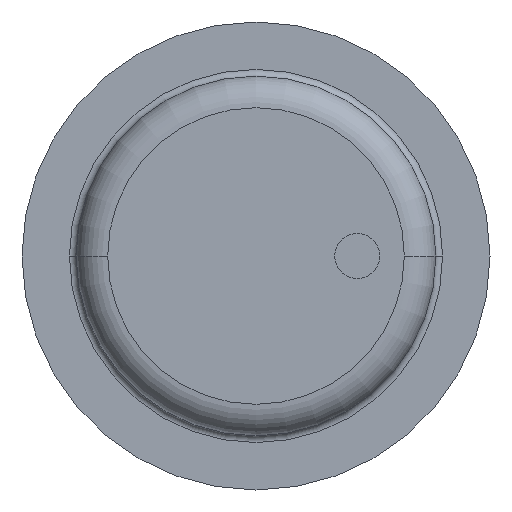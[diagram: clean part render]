
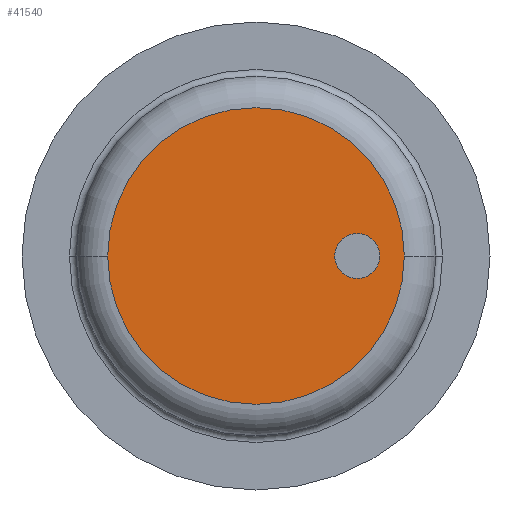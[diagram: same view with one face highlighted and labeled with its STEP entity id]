
A CAD part, front view. The second image highlights one B-rep face of the part: STEP entity #41540.
In plain terms, the highlighted planar face has unit normal (0, -1, 0).
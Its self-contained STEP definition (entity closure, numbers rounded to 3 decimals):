
#41040=CARTESIAN_POINT('',(9.07,-434.,0.));
#41050=VERTEX_POINT('',#41040);
#41080=CARTESIAN_POINT('',(75.,-434.,0.));
#41090=DIRECTION('',(0.,1.,0.));
#41100=DIRECTION('',(1.,0.,0.));
#41110=AXIS2_PLACEMENT_3D('',#41080,#41090,#41100);
#41120=CIRCLE('',#41110,65.93);
#41130=CARTESIAN_POINT('',(140.93,-434.,0.));
#41140=VERTEX_POINT('',#41130);
#41150=EDGE_CURVE('',#41140,#41050,#41120,.T.);
#41290=CARTESIAN_POINT('',(107.965,-434.,0.));
#41300=DIRECTION('',(0.,-1.,0.));
#41310=DIRECTION('',(-1.,0.,0.));
#41320=AXIS2_PLACEMENT_3D('',#41290,#41300,#41310);
#41330=PLANE('',#41320);
#41340=CARTESIAN_POINT('',(120.,-434.,0.));
#41350=DIRECTION('',(0.,1.,0.));
#41360=DIRECTION('',(1.,0.,0.));
#41370=AXIS2_PLACEMENT_3D('',#41340,#41350,#41360);
#41380=CIRCLE('',#41370,10.);
#41390=CARTESIAN_POINT('',(110.,-434.,0.));
#41400=VERTEX_POINT('',#41390);
#41410=CARTESIAN_POINT('',(130.,-434.,0.));
#41420=VERTEX_POINT('',#41410);
#41430=EDGE_CURVE('',#41400,#41420,#41380,.T.);
#41440=ORIENTED_EDGE('',*,*,#41430,.T.);
#41450=EDGE_CURVE('',#41420,#41400,#41380,.T.);
#41460=ORIENTED_EDGE('',*,*,#41450,.T.);
#41470=EDGE_LOOP('',(#41460,#41440));
#41480=FACE_BOUND('',#41470,.T.);
#41490=ORIENTED_EDGE('',*,*,#41150,.F.);
#41500=EDGE_CURVE('',#41050,#41140,#41120,.T.);
#41510=ORIENTED_EDGE('',*,*,#41500,.F.);
#41520=EDGE_LOOP('',(#41510,#41490));
#41530=FACE_OUTER_BOUND('',#41520,.T.);
#41540=ADVANCED_FACE('',(#41480,#41530),#41330,.T.);
